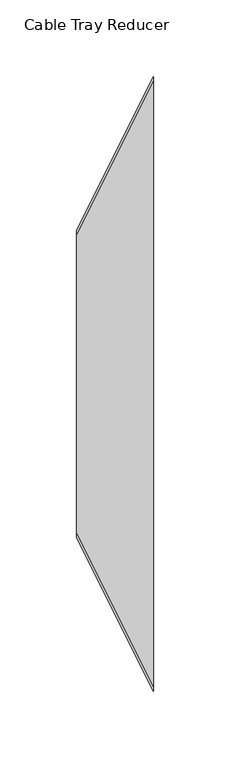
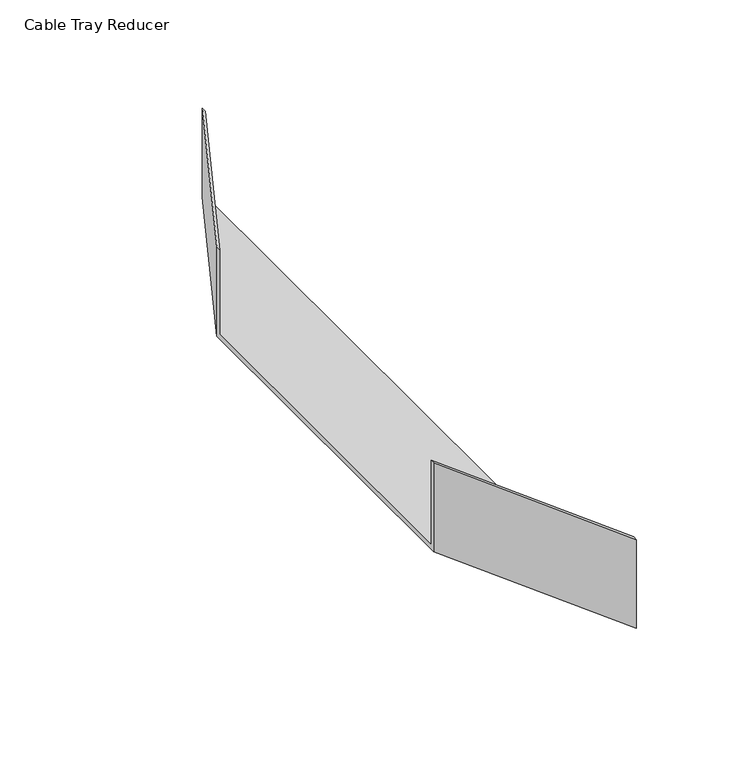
"""IFC4 building model written with IfcOpenShell, lengths in millimetres: cable carrier fitting geometry, Cable Tray Reducer : ELEC_SUB_CT_N2402."""

from ifc_helpers import new_model, si_unit, origin, place, context, project, spatial, faceted_brep, source, transform, mapped, element, save


def cable_tray_reducer_6475a707(model_context):
    return source(origin(), model_context, "Body", "Brep", [
        faceted_brep([(50.0, -200.0, -25.0), (50.0, 200.0, -25.0), (50.0, 200.0, 25.0), (50.0, 197.46, 25.0), (50.0, 197.46, -22.46), (50.0, -197.46, -22.46), (50.0, -197.46, 25.0), (50.0, -200.0, 25.0), (0.0, -100.0, -25.0), (0.0, -100.0, 25.0), (0.0, -97.46, 25.0), (0.0, -97.46, -22.46), (0.0, 97.46, -22.46), (0.0, 97.46, 25.0), (0.0, 100.0, 25.0), (0.0, 100.0, -25.0)], [[[0, 1, 2, 3, 4, 5, 6, 7]], [[8, 9, 10, 11, 12, 13, 14, 15]], [[8, 15, 1, 0]], [[15, 14, 2, 1]], [[14, 13, 3, 2]], [[13, 12, 4, 3]], [[12, 11, 5, 4]], [[11, 10, 6, 5]], [[10, 9, 7, 6]], [[9, 8, 0, 7]]]),
    ])


if __name__ == "__main__":
    model = new_model("IFC4")
    model_context = context("Model", 3, world=origin())
    ifc_project = project(units=[si_unit("LENGTHUNIT", "METRE", prefix="MILLI")], contexts=[model_context])
    site = spatial("IfcSite", under=ifc_project)
    building = spatial("IfcBuilding", under=site)
    placement = place(None, origin())
    cable_tray_reducer_shape = cable_tray_reducer_6475a707(model_context)
    element("IfcCableCarrierFitting", 1, ObjectType="Cable Tray Reducer : ELEC_SUB_CT_N2402", at=placement, inside=building, context=model_context, shape_type="MappedRepresentation", body=[
        mapped(cable_tray_reducer_shape, transform((0.0, 0.0, 0.0), x_axis=(1.0, 0.0, 0.0), y_axis=(0.0, 1.0, 0.0), z_axis=(0.0, 0.0, 1.0))),
    ])
    save(model, "model.ifc")
